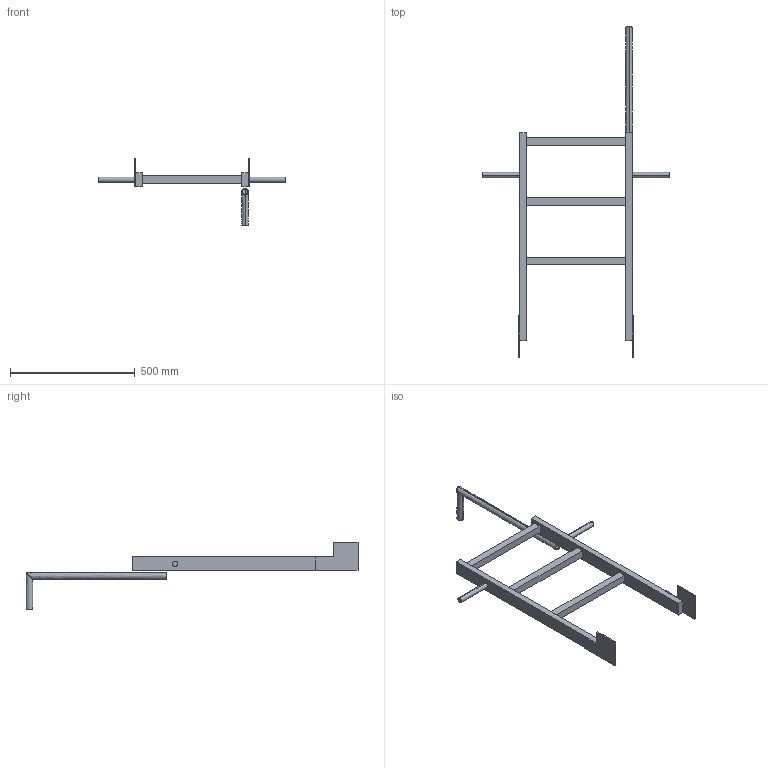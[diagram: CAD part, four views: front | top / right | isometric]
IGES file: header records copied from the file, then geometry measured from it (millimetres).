
Start section:  PTC IGES file: 52331380.igs
Global section: file name: 52331380.igs; native system: Creo Parametric by PTC Inc.; preprocessor: 2022162; author: wep; organization: Unknown; date: 20241218.091219; units: millimetre
Bounding box: 750 x 1330.45 x 271.35 mm (x, y, z)
Surface area: 590121.8 mm2 (no closed solid volume)
Topology: 0 solids, 0 shells, 56 faces, 280 edges, 280 vertices
Faces by surface type: bspline 44, revolution 12
